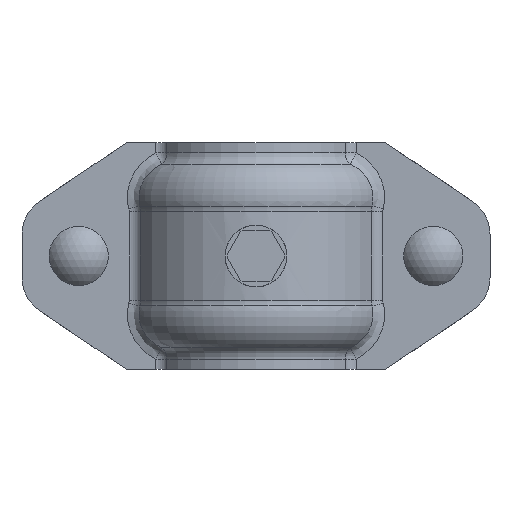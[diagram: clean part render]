
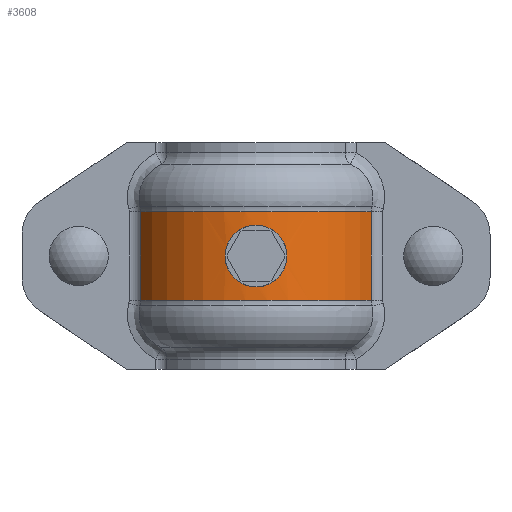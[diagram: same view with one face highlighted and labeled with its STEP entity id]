
A CAD part, front view. The second image highlights one B-rep face of the part: STEP entity #3608.
In plain terms, the highlighted cylindrical face has radius 62.738 mm (diameter 125.476 mm), a partial arc.
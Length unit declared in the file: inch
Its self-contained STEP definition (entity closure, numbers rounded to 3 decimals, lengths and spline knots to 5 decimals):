
#101=B_SPLINE_CURVE_WITH_KNOTS('',3,(#5841,#5842,#5843,#5844,#5845,#5846,
#5847,#5848,#5849,#5850,#5851,#5852,#5853,#5854,#5855,#5856,#5857,#5858,
#5859,#5860,#5861,#5862,#5863,#5864,#5865,#5866,#5867,#5868,#5869,#5870,
#5871,#5872,#5873,#5874,#5875,#5876,#5877,#5878,#5879,#5880,#5881,#5882,
#5883,#5884,#5885,#5886,#5887,#5888,#5889,#5890),.UNSPECIFIED.,.T.,.F.,
(4,2,2,2,2,2,2,2,2,2,2,2,2,2,2,2,2,2,2,2,2,2,2,2,4),(0.,0.28224,
0.56448,1.12896,1.69337,1.97558,2.25779,
2.54,2.8222,3.38662,3.9511,4.23334,
4.51558,4.79782,5.08006,5.64454,6.20895,
6.49116,6.77337,7.05558,7.33778,7.9022,
8.46668,8.74892,9.03116),.UNSPECIFIED.);
#163=FACE_BOUND('',#501,.T.);
#299=FACE_OUTER_BOUND('',#500,.T.);
#500=EDGE_LOOP('',(#2383,#2384,#2385,#2386));
#501=EDGE_LOOP('',(#2387));
#730=LINE('',#5834,#1003);
#731=LINE('',#5838,#1004);
#1003=VECTOR('',#4301,0.3937);
#1004=VECTOR('',#4304,0.3937);
#1277=CIRCLE('',#3850,2.47);
#1278=CIRCLE('',#3851,2.47);
#1477=VERTEX_POINT('',#5832);
#1478=VERTEX_POINT('',#5833);
#1479=VERTEX_POINT('',#5835);
#1480=VERTEX_POINT('',#5837);
#1481=VERTEX_POINT('',#5840);
#1831=EDGE_CURVE('',#1477,#1478,#730,.T.);
#1832=EDGE_CURVE('',#1477,#1479,#1277,.T.);
#1833=EDGE_CURVE('',#1480,#1479,#731,.T.);
#1834=EDGE_CURVE('',#1478,#1480,#1278,.T.);
#1835=EDGE_CURVE('',#1481,#1481,#101,.T.);
#2383=ORIENTED_EDGE('',*,*,#1831,.F.);
#2384=ORIENTED_EDGE('',*,*,#1832,.T.);
#2385=ORIENTED_EDGE('',*,*,#1833,.F.);
#2386=ORIENTED_EDGE('',*,*,#1834,.F.);
#2387=ORIENTED_EDGE('',*,*,#1835,.T.);
#3330=CYLINDRICAL_SURFACE('',#3849,2.47);
#3608=ADVANCED_FACE('',(#299,#163),#3330,.T.);
#3849=AXIS2_PLACEMENT_3D('',#5831,#4299,#4300);
#3850=AXIS2_PLACEMENT_3D('',#5836,#4302,#4303);
#3851=AXIS2_PLACEMENT_3D('',#5839,#4305,#4306);
#4299=DIRECTION('center_axis',(0.,0.,-1.));
#4300=DIRECTION('ref_axis',(0.,-1.,0.));
#4301=DIRECTION('',(0.,0.,-1.));
#4302=DIRECTION('center_axis',(0.,0.,-1.));
#4303=DIRECTION('ref_axis',(1.,0.,0.));
#4304=DIRECTION('',(0.,0.,1.));
#4305=DIRECTION('center_axis',(0.,0.,-1.));
#4306=DIRECTION('ref_axis',(1.,0.,0.));
#5831=CARTESIAN_POINT('Origin',(0.,0.,-0.42139));
#5832=CARTESIAN_POINT('',(2.19372,-1.13511,0.84279));
#5833=CARTESIAN_POINT('',(2.19372,-1.13511,-0.84279));
#5834=CARTESIAN_POINT('',(2.19372,-1.13511,-0.42139));
#5835=CARTESIAN_POINT('',(-2.19372,-1.13511,0.84279));
#5836=CARTESIAN_POINT('Origin',(0.,0.,0.84279));
#5837=CARTESIAN_POINT('',(-2.19372,-1.13511,-0.84279));
#5838=CARTESIAN_POINT('',(-2.19372,-1.13511,-0.42139));
#5839=CARTESIAN_POINT('Origin',(0.,0.,-0.84279));
#5840=CARTESIAN_POINT('',(-0.5875,-2.39911,0.));
#5841=CARTESIAN_POINT('Ctrl Pts',(-0.5875,-2.39911,0.));
#5842=CARTESIAN_POINT('Ctrl Pts',(-0.5875,-2.39911,0.03704));
#5843=CARTESIAN_POINT('Ctrl Pts',(-0.58394,-2.39999,0.0753));
#5844=CARTESIAN_POINT('Ctrl Pts',(-0.569,-2.40358,0.1513));
#5845=CARTESIAN_POINT('Ctrl Pts',(-0.55763,-2.40628,
0.18906));
#5846=CARTESIAN_POINT('Ctrl Pts',(-0.51259,-2.41642,
0.29755));
#5847=CARTESIAN_POINT('Ctrl Pts',(-0.46743,-2.42594,
0.36342));
#5848=CARTESIAN_POINT('Ctrl Pts',(-0.36343,-2.44369,0.46742));
#5849=CARTESIAN_POINT('Ctrl Pts',(-0.29755,-2.45309,
0.51259));
#5850=CARTESIAN_POINT('Ctrl Pts',(-0.18905,-2.46302,
0.55763));
#5851=CARTESIAN_POINT('Ctrl Pts',(-0.1513,-2.46566,
0.569));
#5852=CARTESIAN_POINT('Ctrl Pts',(-0.07529,-2.46915,
0.58394));
#5853=CARTESIAN_POINT('Ctrl Pts',(-0.03704,-2.47,0.5875));
#5854=CARTESIAN_POINT('Ctrl Pts',(0.03704,-2.47,0.5875));
#5855=CARTESIAN_POINT('Ctrl Pts',(0.07529,-2.46915,
0.58394));
#5856=CARTESIAN_POINT('Ctrl Pts',(0.1513,-2.46566,0.569));
#5857=CARTESIAN_POINT('Ctrl Pts',(0.18905,-2.46302,0.55763));
#5858=CARTESIAN_POINT('Ctrl Pts',(0.29755,-2.45309,0.51259));
#5859=CARTESIAN_POINT('Ctrl Pts',(0.36343,-2.44369,0.46742));
#5860=CARTESIAN_POINT('Ctrl Pts',(0.46743,-2.42594,0.36342));
#5861=CARTESIAN_POINT('Ctrl Pts',(0.51259,-2.41642,0.29755));
#5862=CARTESIAN_POINT('Ctrl Pts',(0.55763,-2.40628,0.18906));
#5863=CARTESIAN_POINT('Ctrl Pts',(0.569,-2.40358,0.1513));
#5864=CARTESIAN_POINT('Ctrl Pts',(0.58394,-2.39999,0.0753));
#5865=CARTESIAN_POINT('Ctrl Pts',(0.5875,-2.39911,0.03704));
#5866=CARTESIAN_POINT('Ctrl Pts',(0.5875,-2.39911,-0.03704));
#5867=CARTESIAN_POINT('Ctrl Pts',(0.58394,-2.39999,-0.0753));
#5868=CARTESIAN_POINT('Ctrl Pts',(0.569,-2.40358,-0.1513));
#5869=CARTESIAN_POINT('Ctrl Pts',(0.55763,-2.40628,-0.18906));
#5870=CARTESIAN_POINT('Ctrl Pts',(0.51259,-2.41642,-0.29755));
#5871=CARTESIAN_POINT('Ctrl Pts',(0.46743,-2.42594,-0.36342));
#5872=CARTESIAN_POINT('Ctrl Pts',(0.36343,-2.44369,-0.46742));
#5873=CARTESIAN_POINT('Ctrl Pts',(0.29755,-2.45309,-0.51259));
#5874=CARTESIAN_POINT('Ctrl Pts',(0.18905,-2.46302,-0.55763));
#5875=CARTESIAN_POINT('Ctrl Pts',(0.1513,-2.46566,-0.569));
#5876=CARTESIAN_POINT('Ctrl Pts',(0.07529,-2.46915,
-0.58394));
#5877=CARTESIAN_POINT('Ctrl Pts',(0.03704,-2.47,-0.5875));
#5878=CARTESIAN_POINT('Ctrl Pts',(-0.03704,-2.47,-0.5875));
#5879=CARTESIAN_POINT('Ctrl Pts',(-0.07529,-2.46915,
-0.58394));
#5880=CARTESIAN_POINT('Ctrl Pts',(-0.1513,-2.46566,
-0.569));
#5881=CARTESIAN_POINT('Ctrl Pts',(-0.18905,-2.46302,
-0.55763));
#5882=CARTESIAN_POINT('Ctrl Pts',(-0.29755,-2.45309,
-0.51259));
#5883=CARTESIAN_POINT('Ctrl Pts',(-0.36343,-2.44369,-0.46742));
#5884=CARTESIAN_POINT('Ctrl Pts',(-0.46743,-2.42594,
-0.36342));
#5885=CARTESIAN_POINT('Ctrl Pts',(-0.51259,-2.41642,
-0.29755));
#5886=CARTESIAN_POINT('Ctrl Pts',(-0.55763,-2.40628,
-0.18906));
#5887=CARTESIAN_POINT('Ctrl Pts',(-0.569,-2.40358,-0.1513));
#5888=CARTESIAN_POINT('Ctrl Pts',(-0.58394,-2.39999,-0.0753));
#5889=CARTESIAN_POINT('Ctrl Pts',(-0.5875,-2.39911,-0.03704));
#5890=CARTESIAN_POINT('Ctrl Pts',(-0.5875,-2.39911,0.));
